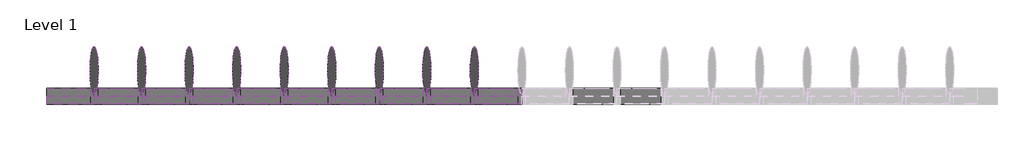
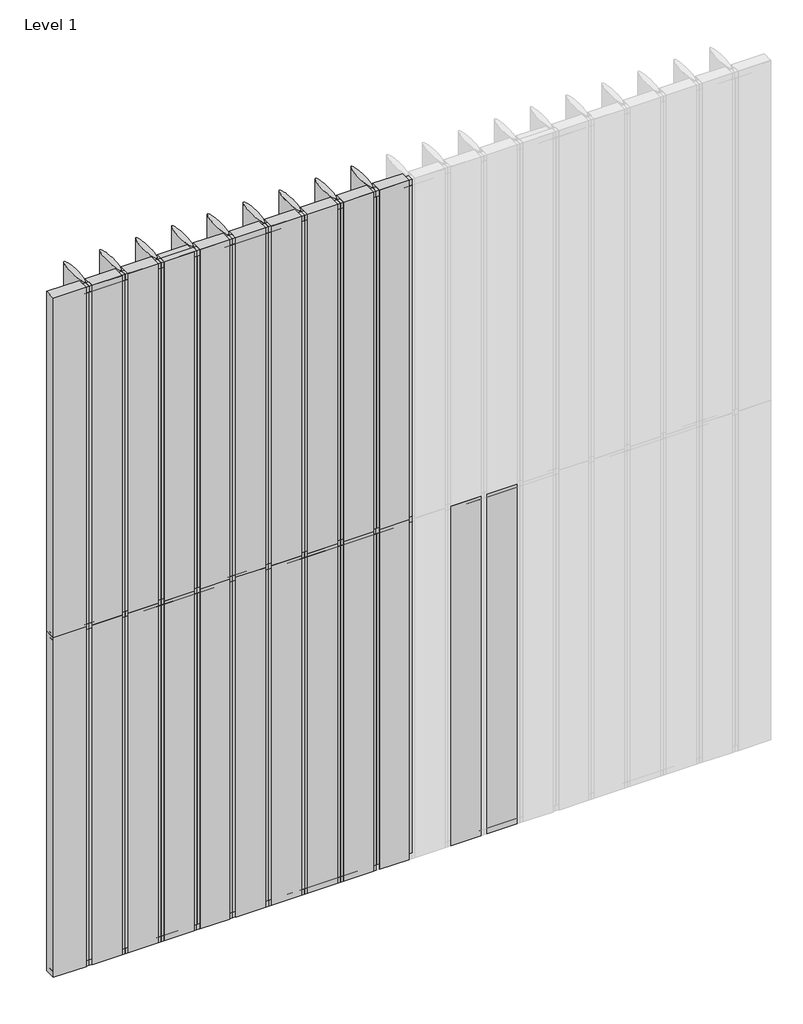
# One storey, part 1 of 2: 47 members, 42 plates.
"""IFC4 building model written with IfcOpenShell, lengths in millimetres."""

from ifc_helpers import new_model, si_unit, origin, place, context, project, spatial, transform, mapped, element, save
from components import rectangular_mullion_489e5dd7, rectangular_mullion_bcb65166, rectangular_mullion_d9db7a7c, rectangular_mullion_906318ec, empty_system_panel_empty_25b61279, empty_system_panel_empty_de0951d3, empty_system_panel_empty_eacbfc0b

model = new_model("IFC4")

# Units and contexts
model_context = context("Model", 3, world=origin())
ifc_project = project(units=[si_unit("LENGTHUNIT", "METRE", prefix="MILLI")], contexts=[model_context])

# Site, building, storey
site = spatial("IfcSite", under=ifc_project)
building = spatial("IfcBuilding", under=site)
storey = spatial("IfcBuildingStorey", under=building, Name="Level 1", Elevation=0.0)

# Members
placement = place(None, origin())
rectangular_mullion_shape = rectangular_mullion_489e5dd7(model_context)
element("IfcMember", 1, ObjectType="Rectangular Mullion : RSen_21_CWM_blade - 300 ellips - 0°_gen_duco projects", at=placement, inside=storey, context=model_context, shape_type="MappedRepresentation", body=[
    mapped(rectangular_mullion_shape, transform((2700.0, 3000.0, 0.0), x_axis=(-1.0, 0.0, 0.0), y_axis=(0.0, 1.0, 0.0), z_axis=(0.0, 0.0, -1.0))),
])
element("IfcMember", 2, ObjectType="Rectangular Mullion : RSen_21_CWM_blade - 300 ellips - 0°_gen_duco projects", at=placement, inside=storey, context=model_context, shape_type="MappedRepresentation", body=[
    mapped(rectangular_mullion_shape, transform((2400.0, 3000.0, 0.0), x_axis=(-1.0, 0.0, 0.0), y_axis=(0.0, 1.0, 0.0), z_axis=(0.0, 0.0, -1.0))),
])
element("IfcMember", 3, ObjectType="Rectangular Mullion : RSen_21_CWM_blade - 300 ellips - 0°_gen_duco projects", at=placement, inside=storey, context=model_context, shape_type="MappedRepresentation", body=[
    mapped(rectangular_mullion_shape, transform((2100.0, 3000.0, 0.0), x_axis=(-1.0, 0.0, 0.0), y_axis=(0.0, 1.0, 0.0), z_axis=(0.0, 0.0, -1.0))),
])
element("IfcMember", 4, ObjectType="Rectangular Mullion : RSen_21_CWM_blade - 300 ellips - 0°_gen_duco projects", at=placement, inside=storey, context=model_context, shape_type="MappedRepresentation", body=[
    mapped(rectangular_mullion_shape, transform((1800.0, 3000.0, 0.0), x_axis=(-1.0, 0.0, 0.0), y_axis=(0.0, 1.0, 0.0), z_axis=(0.0, 0.0, -1.0))),
])
element("IfcMember", 5, ObjectType="Rectangular Mullion : RSen_21_CWM_blade - 300 ellips - 0°_gen_duco projects", at=placement, inside=storey, context=model_context, shape_type="MappedRepresentation", body=[
    mapped(rectangular_mullion_shape, transform((1500.0, 3000.0, 0.0), x_axis=(-1.0, 0.0, 0.0), y_axis=(0.0, 1.0, 0.0), z_axis=(0.0, 0.0, -1.0))),
])
element("IfcMember", 6, ObjectType="Rectangular Mullion : RSen_21_CWM_blade - 300 ellips - 0°_gen_duco projects", at=placement, inside=storey, context=model_context, shape_type="MappedRepresentation", body=[
    mapped(rectangular_mullion_shape, transform((1200.0, 3000.0, 0.0), x_axis=(-1.0, 0.0, 0.0), y_axis=(0.0, 1.0, 0.0), z_axis=(0.0, 0.0, -1.0))),
])
element("IfcMember", 7, ObjectType="Rectangular Mullion : RSen_21_CWM_blade - 300 ellips - 0°_gen_duco projects", at=placement, inside=storey, context=model_context, shape_type="MappedRepresentation", body=[
    mapped(rectangular_mullion_shape, transform((900.0, 3000.0, 0.0), x_axis=(-1.0, 0.0, 0.0), y_axis=(0.0, 1.0, 0.0), z_axis=(0.0, 0.0, -1.0))),
])
element("IfcMember", 8, ObjectType="Rectangular Mullion : RSen_21_CWM_blade - 300 ellips - 0°_gen_duco projects", at=placement, inside=storey, context=model_context, shape_type="MappedRepresentation", body=[
    mapped(rectangular_mullion_shape, transform((600.0, 3000.0, 0.0), x_axis=(-1.0, 0.0, 0.0), y_axis=(0.0, 1.0, 0.0), z_axis=(0.0, 0.0, -1.0))),
])
element("IfcMember", 9, ObjectType="Rectangular Mullion : RSen_21_CWM_blade - 300 ellips - 0°_gen_duco projects", at=placement, inside=storey, context=model_context, shape_type="MappedRepresentation", body=[
    mapped(rectangular_mullion_shape, transform((300.0, 3000.0, 0.0), x_axis=(-1.0, 0.0, 0.0), y_axis=(0.0, 1.0, 0.0), z_axis=(0.0, 0.0, -1.0))),
])
element("IfcMember", 10, ObjectType="Rectangular Mullion : RSen_21_CWM_blade - 300 ellips - 0°_gen_duco projects", at=placement, inside=storey, context=model_context, shape_type="MappedRepresentation", body=[
    mapped(rectangular_mullion_shape, transform((2700.0, 3000.0, 3000.0), x_axis=(-1.0, 0.0, 0.0), y_axis=(0.0, 1.0, 0.0), z_axis=(0.0, 0.0, -1.0))),
])
element("IfcMember", 11, ObjectType="Rectangular Mullion : RSen_21_CWM_blade - 300 ellips - 0°_gen_duco projects", at=placement, inside=storey, context=model_context, shape_type="MappedRepresentation", body=[
    mapped(rectangular_mullion_shape, transform((2400.0, 3000.0, 3000.0), x_axis=(-1.0, 0.0, 0.0), y_axis=(0.0, 1.0, 0.0), z_axis=(0.0, 0.0, -1.0))),
])
element("IfcMember", 12, ObjectType="Rectangular Mullion : RSen_21_CWM_blade - 300 ellips - 0°_gen_duco projects", at=placement, inside=storey, context=model_context, shape_type="MappedRepresentation", body=[
    mapped(rectangular_mullion_shape, transform((2100.0, 3000.0, 3000.0), x_axis=(-1.0, 0.0, 0.0), y_axis=(0.0, 1.0, 0.0), z_axis=(0.0, 0.0, -1.0))),
])
element("IfcMember", 13, ObjectType="Rectangular Mullion : RSen_21_CWM_blade - 300 ellips - 0°_gen_duco projects", at=placement, inside=storey, context=model_context, shape_type="MappedRepresentation", body=[
    mapped(rectangular_mullion_shape, transform((1800.0, 3000.0, 3000.0), x_axis=(-1.0, 0.0, 0.0), y_axis=(0.0, 1.0, 0.0), z_axis=(0.0, 0.0, -1.0))),
])
element("IfcMember", 14, ObjectType="Rectangular Mullion : RSen_21_CWM_blade - 300 ellips - 0°_gen_duco projects", at=placement, inside=storey, context=model_context, shape_type="MappedRepresentation", body=[
    mapped(rectangular_mullion_shape, transform((1500.0, 3000.0, 3000.0), x_axis=(-1.0, 0.0, 0.0), y_axis=(0.0, 1.0, 0.0), z_axis=(0.0, 0.0, -1.0))),
])
element("IfcMember", 15, ObjectType="Rectangular Mullion : RSen_21_CWM_blade - 300 ellips - 0°_gen_duco projects", at=placement, inside=storey, context=model_context, shape_type="MappedRepresentation", body=[
    mapped(rectangular_mullion_shape, transform((1200.0, 3000.0, 3000.0), x_axis=(-1.0, 0.0, 0.0), y_axis=(0.0, 1.0, 0.0), z_axis=(0.0, 0.0, -1.0))),
])
element("IfcMember", 16, ObjectType="Rectangular Mullion : RSen_21_CWM_blade - 300 ellips - 0°_gen_duco projects", at=placement, inside=storey, context=model_context, shape_type="MappedRepresentation", body=[
    mapped(rectangular_mullion_shape, transform((900.0, 3000.0, 3000.0), x_axis=(-1.0, 0.0, 0.0), y_axis=(0.0, 1.0, 0.0), z_axis=(0.0, 0.0, -1.0))),
])
element("IfcMember", 17, ObjectType="Rectangular Mullion : RSen_21_CWM_blade - 300 ellips - 0°_gen_duco projects", at=placement, inside=storey, context=model_context, shape_type="MappedRepresentation", body=[
    mapped(rectangular_mullion_shape, transform((600.0, 3000.0, 3000.0), x_axis=(-1.0, 0.0, 0.0), y_axis=(0.0, 1.0, 0.0), z_axis=(0.0, 0.0, -1.0))),
])
element("IfcMember", 18, ObjectType="Rectangular Mullion : RSen_21_CWM_blade - 300 ellips - 0°_gen_duco projects", at=placement, inside=storey, context=model_context, shape_type="MappedRepresentation", body=[
    mapped(rectangular_mullion_shape, transform((300.0, 3000.0, 3000.0), x_axis=(-1.0, 0.0, 0.0), y_axis=(0.0, 1.0, 0.0), z_axis=(0.0, 0.0, -1.0))),
])
rectangular_mullion_2_shape = rectangular_mullion_bcb65166(model_context)
element("IfcMember", 19, ObjectType="Rectangular Mullion : RSen_21_CWM_support profile 50x50 - left_gen_duco projects", at=placement, inside=storey, context=model_context, shape_type="MappedRepresentation", body=[
    mapped(rectangular_mullion_2_shape, transform((0.0, 3000.0, 6000.0), x_axis=(0.0, 0.0, 1.0), y_axis=(0.0, 1.0, 0.0), z_axis=(-1.0, 0.0, 0.0))),
])
element("IfcMember", 20, ObjectType="Rectangular Mullion : RSen_21_CWM_support profile 50x50 - left_gen_duco projects", at=placement, inside=storey, context=model_context, shape_type="MappedRepresentation", body=[
    mapped(rectangular_mullion_2_shape, transform((2700.0, 3000.0, 6000.0), x_axis=(0.0, 0.0, 1.0), y_axis=(0.0, 1.0, 0.0), z_axis=(-1.0, 0.0, 0.0))),
])
element("IfcMember", 21, ObjectType="Rectangular Mullion : RSen_21_CWM_support profile 50x50 - left_gen_duco projects", at=placement, inside=storey, context=model_context, shape_type="MappedRepresentation", body=[
    mapped(rectangular_mullion_2_shape, transform((2400.0, 3000.0, 6000.0), x_axis=(0.0, 0.0, 1.0), y_axis=(0.0, 1.0, 0.0), z_axis=(-1.0, 0.0, 0.0))),
])
element("IfcMember", 22, ObjectType="Rectangular Mullion : RSen_21_CWM_support profile 50x50 - left_gen_duco projects", at=placement, inside=storey, context=model_context, shape_type="MappedRepresentation", body=[
    mapped(rectangular_mullion_2_shape, transform((2100.0, 3000.0, 6000.0), x_axis=(0.0, 0.0, 1.0), y_axis=(0.0, 1.0, 0.0), z_axis=(-1.0, 0.0, 0.0))),
])
element("IfcMember", 23, ObjectType="Rectangular Mullion : RSen_21_CWM_support profile 50x50 - left_gen_duco projects", at=placement, inside=storey, context=model_context, shape_type="MappedRepresentation", body=[
    mapped(rectangular_mullion_2_shape, transform((1800.0, 3000.0, 6000.0), x_axis=(0.0, 0.0, 1.0), y_axis=(0.0, 1.0, 0.0), z_axis=(-1.0, 0.0, 0.0))),
])
element("IfcMember", 24, ObjectType="Rectangular Mullion : RSen_21_CWM_support profile 50x50 - left_gen_duco projects", at=placement, inside=storey, context=model_context, shape_type="MappedRepresentation", body=[
    mapped(rectangular_mullion_2_shape, transform((1500.0, 3000.0, 6000.0), x_axis=(0.0, 0.0, 1.0), y_axis=(0.0, 1.0, 0.0), z_axis=(-1.0, 0.0, 0.0))),
])
element("IfcMember", 25, ObjectType="Rectangular Mullion : RSen_21_CWM_support profile 50x50 - left_gen_duco projects", at=placement, inside=storey, context=model_context, shape_type="MappedRepresentation", body=[
    mapped(rectangular_mullion_2_shape, transform((1200.0, 3000.0, 6000.0), x_axis=(0.0, 0.0, 1.0), y_axis=(0.0, 1.0, 0.0), z_axis=(-1.0, 0.0, 0.0))),
])
element("IfcMember", 26, ObjectType="Rectangular Mullion : RSen_21_CWM_support profile 50x50 - left_gen_duco projects", at=placement, inside=storey, context=model_context, shape_type="MappedRepresentation", body=[
    mapped(rectangular_mullion_2_shape, transform((900.0, 3000.0, 6000.0), x_axis=(0.0, 0.0, 1.0), y_axis=(0.0, 1.0, 0.0), z_axis=(-1.0, 0.0, 0.0))),
])
element("IfcMember", 27, ObjectType="Rectangular Mullion : RSen_21_CWM_support profile 50x50 - left_gen_duco projects", at=placement, inside=storey, context=model_context, shape_type="MappedRepresentation", body=[
    mapped(rectangular_mullion_2_shape, transform((600.0, 3000.0, 6000.0), x_axis=(0.0, 0.0, 1.0), y_axis=(0.0, 1.0, 0.0), z_axis=(-1.0, 0.0, 0.0))),
])
element("IfcMember", 28, ObjectType="Rectangular Mullion : RSen_21_CWM_support profile 50x50 - left_gen_duco projects", at=placement, inside=storey, context=model_context, shape_type="MappedRepresentation", body=[
    mapped(rectangular_mullion_2_shape, transform((300.0, 3000.0, 6000.0), x_axis=(0.0, 0.0, 1.0), y_axis=(0.0, 1.0, 0.0), z_axis=(-1.0, 0.0, 0.0))),
])
rectangular_mullion_3_shape = rectangular_mullion_d9db7a7c(model_context)
element("IfcMember", 29, ObjectType="Rectangular Mullion : RSen_21_CWM_support profile 50x50 - right_gen_duco projects", at=placement, inside=storey, context=model_context, shape_type="MappedRepresentation", body=[
    mapped(rectangular_mullion_3_shape, transform((2700.0, 3000.0, 0.0), x_axis=(0.0, 0.0, -1.0), y_axis=(0.0, 1.0, 0.0), z_axis=(1.0, 0.0, 0.0))),
])
element("IfcMember", 30, ObjectType="Rectangular Mullion : RSen_21_CWM_support profile 50x50 - right_gen_duco projects", at=placement, inside=storey, context=model_context, shape_type="MappedRepresentation", body=[
    mapped(rectangular_mullion_3_shape, transform((2400.0, 3000.0, 0.0), x_axis=(0.0, 0.0, -1.0), y_axis=(0.0, 1.0, 0.0), z_axis=(1.0, 0.0, 0.0))),
])
element("IfcMember", 31, ObjectType="Rectangular Mullion : RSen_21_CWM_support profile 50x50 - right_gen_duco projects", at=placement, inside=storey, context=model_context, shape_type="MappedRepresentation", body=[
    mapped(rectangular_mullion_3_shape, transform((2100.0, 3000.0, 0.0), x_axis=(0.0, 0.0, -1.0), y_axis=(0.0, 1.0, 0.0), z_axis=(1.0, 0.0, 0.0))),
])
element("IfcMember", 32, ObjectType="Rectangular Mullion : RSen_21_CWM_support profile 50x50 - right_gen_duco projects", at=placement, inside=storey, context=model_context, shape_type="MappedRepresentation", body=[
    mapped(rectangular_mullion_3_shape, transform((1800.0, 3000.0, 0.0), x_axis=(0.0, 0.0, -1.0), y_axis=(0.0, 1.0, 0.0), z_axis=(1.0, 0.0, 0.0))),
])
element("IfcMember", 33, ObjectType="Rectangular Mullion : RSen_21_CWM_support profile 50x50 - right_gen_duco projects", at=placement, inside=storey, context=model_context, shape_type="MappedRepresentation", body=[
    mapped(rectangular_mullion_3_shape, transform((1500.0, 3000.0, 0.0), x_axis=(0.0, 0.0, -1.0), y_axis=(0.0, 1.0, 0.0), z_axis=(1.0, 0.0, 0.0))),
])
element("IfcMember", 34, ObjectType="Rectangular Mullion : RSen_21_CWM_support profile 50x50 - right_gen_duco projects", at=placement, inside=storey, context=model_context, shape_type="MappedRepresentation", body=[
    mapped(rectangular_mullion_3_shape, transform((1200.0, 3000.0, 0.0), x_axis=(0.0, 0.0, -1.0), y_axis=(0.0, 1.0, 0.0), z_axis=(1.0, 0.0, 0.0))),
])
element("IfcMember", 35, ObjectType="Rectangular Mullion : RSen_21_CWM_support profile 50x50 - right_gen_duco projects", at=placement, inside=storey, context=model_context, shape_type="MappedRepresentation", body=[
    mapped(rectangular_mullion_3_shape, transform((900.0, 3000.0, 0.0), x_axis=(0.0, 0.0, -1.0), y_axis=(0.0, 1.0, 0.0), z_axis=(1.0, 0.0, 0.0))),
])
element("IfcMember", 36, ObjectType="Rectangular Mullion : RSen_21_CWM_support profile 50x50 - right_gen_duco projects", at=placement, inside=storey, context=model_context, shape_type="MappedRepresentation", body=[
    mapped(rectangular_mullion_3_shape, transform((600.0, 3000.0, 0.0), x_axis=(0.0, 0.0, -1.0), y_axis=(0.0, 1.0, 0.0), z_axis=(1.0, 0.0, 0.0))),
])
element("IfcMember", 37, ObjectType="Rectangular Mullion : RSen_21_CWM_support profile 50x50 - right_gen_duco projects", at=placement, inside=storey, context=model_context, shape_type="MappedRepresentation", body=[
    mapped(rectangular_mullion_3_shape, transform((300.0, 3000.0, 0.0), x_axis=(0.0, 0.0, -1.0), y_axis=(0.0, 1.0, 0.0), z_axis=(1.0, 0.0, 0.0))),
])
rectangular_mullion_4_shape = rectangular_mullion_906318ec(model_context)
element("IfcMember", 38, ObjectType="Rectangular Mullion : RSen_21_CWM_support profile 50x50_gen_duco projects", at=placement, inside=storey, context=model_context, shape_type="MappedRepresentation", body=[
    mapped(rectangular_mullion_4_shape, transform((2700.0, 3000.0, 3000.0), x_axis=(0.0, 0.0, 1.0), y_axis=(0.0, 1.0, 0.0), z_axis=(-1.0, 0.0, 0.0))),
])
element("IfcMember", 39, ObjectType="Rectangular Mullion : RSen_21_CWM_support profile 50x50_gen_duco projects", at=placement, inside=storey, context=model_context, shape_type="MappedRepresentation", body=[
    mapped(rectangular_mullion_4_shape, transform((2400.0, 3000.0, 3000.0), x_axis=(0.0, 0.0, 1.0), y_axis=(0.0, 1.0, 0.0), z_axis=(-1.0, 0.0, 0.0))),
])
element("IfcMember", 40, ObjectType="Rectangular Mullion : RSen_21_CWM_support profile 50x50_gen_duco projects", at=placement, inside=storey, context=model_context, shape_type="MappedRepresentation", body=[
    mapped(rectangular_mullion_4_shape, transform((2100.0, 3000.0, 3000.0), x_axis=(0.0, 0.0, 1.0), y_axis=(0.0, 1.0, 0.0), z_axis=(-1.0, 0.0, 0.0))),
])
element("IfcMember", 41, ObjectType="Rectangular Mullion : RSen_21_CWM_support profile 50x50_gen_duco projects", at=placement, inside=storey, context=model_context, shape_type="MappedRepresentation", body=[
    mapped(rectangular_mullion_4_shape, transform((1800.0, 3000.0, 3000.0), x_axis=(0.0, 0.0, 1.0), y_axis=(0.0, 1.0, 0.0), z_axis=(-1.0, 0.0, 0.0))),
])
element("IfcMember", 42, ObjectType="Rectangular Mullion : RSen_21_CWM_support profile 50x50_gen_duco projects", at=placement, inside=storey, context=model_context, shape_type="MappedRepresentation", body=[
    mapped(rectangular_mullion_4_shape, transform((1500.0, 3000.0, 3000.0), x_axis=(0.0, 0.0, 1.0), y_axis=(0.0, 1.0, 0.0), z_axis=(-1.0, 0.0, 0.0))),
])
element("IfcMember", 43, ObjectType="Rectangular Mullion : RSen_21_CWM_support profile 50x50_gen_duco projects", at=placement, inside=storey, context=model_context, shape_type="MappedRepresentation", body=[
    mapped(rectangular_mullion_4_shape, transform((1200.0, 3000.0, 3000.0), x_axis=(0.0, 0.0, 1.0), y_axis=(0.0, 1.0, 0.0), z_axis=(-1.0, 0.0, 0.0))),
])
element("IfcMember", 44, ObjectType="Rectangular Mullion : RSen_21_CWM_support profile 50x50_gen_duco projects", at=placement, inside=storey, context=model_context, shape_type="MappedRepresentation", body=[
    mapped(rectangular_mullion_4_shape, transform((900.0, 3000.0, 3000.0), x_axis=(0.0, 0.0, 1.0), y_axis=(0.0, 1.0, 0.0), z_axis=(-1.0, 0.0, 0.0))),
])
element("IfcMember", 45, ObjectType="Rectangular Mullion : RSen_21_CWM_support profile 50x50_gen_duco projects", at=placement, inside=storey, context=model_context, shape_type="MappedRepresentation", body=[
    mapped(rectangular_mullion_4_shape, transform((600.0, 3000.0, 3000.0), x_axis=(0.0, 0.0, 1.0), y_axis=(0.0, 1.0, 0.0), z_axis=(-1.0, 0.0, 0.0))),
])
element("IfcMember", 46, ObjectType="Rectangular Mullion : RSen_21_CWM_support profile 50x50_gen_duco projects", at=placement, inside=storey, context=model_context, shape_type="MappedRepresentation", body=[
    mapped(rectangular_mullion_4_shape, transform((300.0, 3000.0, 3000.0), x_axis=(0.0, 0.0, 1.0), y_axis=(0.0, 1.0, 0.0), z_axis=(-1.0, 0.0, 0.0))),
])
element("IfcMember", 47, ObjectType="Rectangular Mullion : RSen_21_CWM_support profile 50x50_gen_duco projects", at=placement, inside=storey, context=model_context, shape_type="MappedRepresentation", body=[
    mapped(rectangular_mullion_4_shape, transform((0.0, 3000.0, 3000.0), x_axis=(0.0, 0.0, 1.0), y_axis=(0.0, 1.0, 0.0), z_axis=(-1.0, 0.0, 0.0))),
])

# Plates
empty_system_panel_empty_shape = empty_system_panel_empty_25b61279(model_context)
element("IfcPlate", 48, ObjectType="Empty System Panel : Empty", at=placement, inside=storey, context=model_context, shape_type="MappedRepresentation", body=[
    mapped(empty_system_panel_empty_shape, transform((137.5, 3000.0, 0.0), x_axis=(-1.0, 0.0, 0.0), y_axis=(0.0, -1.0, 0.0), z_axis=(0.0, 0.0, 1.0))),
])
element("IfcPlate", 49, ObjectType="Empty System Panel : Empty", at=placement, inside=storey, context=model_context, shape_type="MappedRepresentation", body=[
    mapped(empty_system_panel_empty_shape, transform((137.5, 3000.0, 3000.0), x_axis=(-1.0, 0.0, 0.0), y_axis=(0.0, -1.0, 0.0), z_axis=(0.0, 0.0, 1.0))),
])
empty_system_panel_empty_2_shape = empty_system_panel_empty_de0951d3(model_context)
element("IfcPlate", 50, ObjectType="Empty System Panel : Empty", at=placement, inside=storey, context=model_context, shape_type="MappedRepresentation", body=[
    mapped(empty_system_panel_empty_2_shape, transform((3750.0, 3000.0, 0.0), x_axis=(-1.0, 0.0, 0.0), y_axis=(0.0, -1.0, 0.0), z_axis=(0.0, 0.0, 1.0))),
])
element("IfcPlate", 51, ObjectType="Empty System Panel : Empty", at=placement, inside=storey, context=model_context, shape_type="MappedRepresentation", body=[
    mapped(empty_system_panel_empty_2_shape, transform((3450.0, 3000.0, 0.0), x_axis=(-1.0, 0.0, 0.0), y_axis=(0.0, -1.0, 0.0), z_axis=(0.0, 0.0, 1.0))),
])
element("IfcPlate", 52, ObjectType="Empty System Panel : Empty", at=placement, inside=storey, context=model_context, shape_type="MappedRepresentation", body=[
    mapped(empty_system_panel_empty_2_shape, transform((2850.0, 3000.0, 0.0), x_axis=(-1.0, 0.0, 0.0), y_axis=(0.0, -1.0, 0.0), z_axis=(0.0, 0.0, 1.0))),
])
element("IfcPlate", 53, ObjectType="Empty System Panel : Empty", at=placement, inside=storey, context=model_context, shape_type="MappedRepresentation", body=[
    mapped(empty_system_panel_empty_2_shape, transform((2550.0, 3000.0, 0.0), x_axis=(-1.0, 0.0, 0.0), y_axis=(0.0, -1.0, 0.0), z_axis=(0.0, 0.0, 1.0))),
])
element("IfcPlate", 54, ObjectType="Empty System Panel : Empty", at=placement, inside=storey, context=model_context, shape_type="MappedRepresentation", body=[
    mapped(empty_system_panel_empty_2_shape, transform((2250.0, 3000.0, 0.0), x_axis=(-1.0, 0.0, 0.0), y_axis=(0.0, -1.0, 0.0), z_axis=(0.0, 0.0, 1.0))),
])
element("IfcPlate", 55, ObjectType="Empty System Panel : Empty", at=placement, inside=storey, context=model_context, shape_type="MappedRepresentation", body=[
    mapped(empty_system_panel_empty_2_shape, transform((1950.0, 3000.0, 0.0), x_axis=(-1.0, 0.0, 0.0), y_axis=(0.0, -1.0, 0.0), z_axis=(0.0, 0.0, 1.0))),
])
element("IfcPlate", 56, ObjectType="Empty System Panel : Empty", at=placement, inside=storey, context=model_context, shape_type="MappedRepresentation", body=[
    mapped(empty_system_panel_empty_2_shape, transform((1650.0, 3000.0, 0.0), x_axis=(-1.0, 0.0, 0.0), y_axis=(0.0, -1.0, 0.0), z_axis=(0.0, 0.0, 1.0))),
])
element("IfcPlate", 57, ObjectType="Empty System Panel : Empty", at=placement, inside=storey, context=model_context, shape_type="MappedRepresentation", body=[
    mapped(empty_system_panel_empty_2_shape, transform((1350.0, 3000.0, 0.0), x_axis=(-1.0, 0.0, 0.0), y_axis=(0.0, -1.0, 0.0), z_axis=(0.0, 0.0, 1.0))),
])
element("IfcPlate", 58, ObjectType="Empty System Panel : Empty", at=placement, inside=storey, context=model_context, shape_type="MappedRepresentation", body=[
    mapped(empty_system_panel_empty_2_shape, transform((1050.0, 3000.0, 0.0), x_axis=(-1.0, 0.0, 0.0), y_axis=(0.0, -1.0, 0.0), z_axis=(0.0, 0.0, 1.0))),
])
element("IfcPlate", 59, ObjectType="Empty System Panel : Empty", at=placement, inside=storey, context=model_context, shape_type="MappedRepresentation", body=[
    mapped(empty_system_panel_empty_2_shape, transform((750.0, 3000.0, 0.0), x_axis=(-1.0, 0.0, 0.0), y_axis=(0.0, -1.0, 0.0), z_axis=(0.0, 0.0, 1.0))),
])
element("IfcPlate", 60, ObjectType="Empty System Panel : Empty", at=placement, inside=storey, context=model_context, shape_type="MappedRepresentation", body=[
    mapped(empty_system_panel_empty_2_shape, transform((450.0, 3000.0, 0.0), x_axis=(-1.0, 0.0, 0.0), y_axis=(0.0, -1.0, 0.0), z_axis=(0.0, 0.0, 1.0))),
])
element("IfcPlate", 61, ObjectType="Empty System Panel : Empty", at=placement, inside=storey, context=model_context, shape_type="MappedRepresentation", body=[
    mapped(empty_system_panel_empty_2_shape, transform((2850.0, 3000.0, 3000.0), x_axis=(-1.0, 0.0, 0.0), y_axis=(0.0, -1.0, 0.0), z_axis=(0.0, 0.0, 1.0))),
])
element("IfcPlate", 62, ObjectType="Empty System Panel : Empty", at=placement, inside=storey, context=model_context, shape_type="MappedRepresentation", body=[
    mapped(empty_system_panel_empty_2_shape, transform((2550.0, 3000.0, 3000.0), x_axis=(-1.0, 0.0, 0.0), y_axis=(0.0, -1.0, 0.0), z_axis=(0.0, 0.0, 1.0))),
])
element("IfcPlate", 63, ObjectType="Empty System Panel : Empty", at=placement, inside=storey, context=model_context, shape_type="MappedRepresentation", body=[
    mapped(empty_system_panel_empty_2_shape, transform((2250.0, 3000.0, 3000.0), x_axis=(-1.0, 0.0, 0.0), y_axis=(0.0, -1.0, 0.0), z_axis=(0.0, 0.0, 1.0))),
])
element("IfcPlate", 64, ObjectType="Empty System Panel : Empty", at=placement, inside=storey, context=model_context, shape_type="MappedRepresentation", body=[
    mapped(empty_system_panel_empty_2_shape, transform((1950.0, 3000.0, 3000.0), x_axis=(-1.0, 0.0, 0.0), y_axis=(0.0, -1.0, 0.0), z_axis=(0.0, 0.0, 1.0))),
])
element("IfcPlate", 65, ObjectType="Empty System Panel : Empty", at=placement, inside=storey, context=model_context, shape_type="MappedRepresentation", body=[
    mapped(empty_system_panel_empty_2_shape, transform((1650.0, 3000.0, 3000.0), x_axis=(-1.0, 0.0, 0.0), y_axis=(0.0, -1.0, 0.0), z_axis=(0.0, 0.0, 1.0))),
])
element("IfcPlate", 66, ObjectType="Empty System Panel : Empty", at=placement, inside=storey, context=model_context, shape_type="MappedRepresentation", body=[
    mapped(empty_system_panel_empty_2_shape, transform((1350.0, 3000.0, 3000.0), x_axis=(-1.0, 0.0, 0.0), y_axis=(0.0, -1.0, 0.0), z_axis=(0.0, 0.0, 1.0))),
])
element("IfcPlate", 67, ObjectType="Empty System Panel : Empty", at=placement, inside=storey, context=model_context, shape_type="MappedRepresentation", body=[
    mapped(empty_system_panel_empty_2_shape, transform((1050.0, 3000.0, 3000.0), x_axis=(-1.0, 0.0, 0.0), y_axis=(0.0, -1.0, 0.0), z_axis=(0.0, 0.0, 1.0))),
])
element("IfcPlate", 68, ObjectType="Empty System Panel : Empty", at=placement, inside=storey, context=model_context, shape_type="MappedRepresentation", body=[
    mapped(empty_system_panel_empty_2_shape, transform((750.0, 3000.0, 3000.0), x_axis=(-1.0, 0.0, 0.0), y_axis=(0.0, -1.0, 0.0), z_axis=(0.0, 0.0, 1.0))),
])
element("IfcPlate", 69, ObjectType="Empty System Panel : Empty", at=placement, inside=storey, context=model_context, shape_type="MappedRepresentation", body=[
    mapped(empty_system_panel_empty_2_shape, transform((450.0, 3000.0, 3000.0), x_axis=(-1.0, 0.0, 0.0), y_axis=(0.0, -1.0, 0.0), z_axis=(0.0, 0.0, 1.0))),
])
empty_system_panel_empty_3_shape = empty_system_panel_empty_eacbfc0b(model_context)
element("IfcPlate", 70, ObjectType="Empty System Panel : Empty", at=placement, inside=storey, context=model_context, shape_type="MappedRepresentation", body=[
    mapped(empty_system_panel_empty_3_shape, transform((2850.0, 3000.0, 50.0), x_axis=(-1.0, 0.0, 0.0), y_axis=(0.0, -1.0, 0.0), z_axis=(0.0, 0.0, 1.0))),
])
element("IfcPlate", 71, ObjectType="Empty System Panel : Empty", at=placement, inside=storey, context=model_context, shape_type="MappedRepresentation", body=[
    mapped(empty_system_panel_empty_3_shape, transform((2550.0, 3000.0, 50.0), x_axis=(-1.0, 0.0, 0.0), y_axis=(0.0, -1.0, 0.0), z_axis=(0.0, 0.0, 1.0))),
])
element("IfcPlate", 72, ObjectType="Empty System Panel : Empty", at=placement, inside=storey, context=model_context, shape_type="MappedRepresentation", body=[
    mapped(empty_system_panel_empty_3_shape, transform((2250.0, 3000.0, 50.0), x_axis=(-1.0, 0.0, 0.0), y_axis=(0.0, -1.0, 0.0), z_axis=(0.0, 0.0, 1.0))),
])
element("IfcPlate", 73, ObjectType="Empty System Panel : Empty", at=placement, inside=storey, context=model_context, shape_type="MappedRepresentation", body=[
    mapped(empty_system_panel_empty_3_shape, transform((1950.0, 3000.0, 50.0), x_axis=(-1.0, 0.0, 0.0), y_axis=(0.0, -1.0, 0.0), z_axis=(0.0, 0.0, 1.0))),
])
element("IfcPlate", 74, ObjectType="Empty System Panel : Empty", at=placement, inside=storey, context=model_context, shape_type="MappedRepresentation", body=[
    mapped(empty_system_panel_empty_3_shape, transform((1650.0, 3000.0, 50.0), x_axis=(-1.0, 0.0, 0.0), y_axis=(0.0, -1.0, 0.0), z_axis=(0.0, 0.0, 1.0))),
])
element("IfcPlate", 75, ObjectType="Empty System Panel : Empty", at=placement, inside=storey, context=model_context, shape_type="MappedRepresentation", body=[
    mapped(empty_system_panel_empty_3_shape, transform((1350.0, 3000.0, 50.0), x_axis=(-1.0, 0.0, 0.0), y_axis=(0.0, -1.0, 0.0), z_axis=(0.0, 0.0, 1.0))),
])
element("IfcPlate", 76, ObjectType="Empty System Panel : Empty", at=placement, inside=storey, context=model_context, shape_type="MappedRepresentation", body=[
    mapped(empty_system_panel_empty_3_shape, transform((1050.0, 3000.0, 50.0), x_axis=(-1.0, 0.0, 0.0), y_axis=(0.0, -1.0, 0.0), z_axis=(0.0, 0.0, 1.0))),
])
element("IfcPlate", 77, ObjectType="Empty System Panel : Empty", at=placement, inside=storey, context=model_context, shape_type="MappedRepresentation", body=[
    mapped(empty_system_panel_empty_3_shape, transform((750.0, 3000.0, 50.0), x_axis=(-1.0, 0.0, 0.0), y_axis=(0.0, -1.0, 0.0), z_axis=(0.0, 0.0, 1.0))),
])
element("IfcPlate", 78, ObjectType="Empty System Panel : Empty", at=placement, inside=storey, context=model_context, shape_type="MappedRepresentation", body=[
    mapped(empty_system_panel_empty_3_shape, transform((450.0, 3000.0, 50.0), x_axis=(-1.0, 0.0, 0.0), y_axis=(0.0, -1.0, 0.0), z_axis=(0.0, 0.0, 1.0))),
])
element("IfcPlate", 79, ObjectType="Empty System Panel : Empty", at=placement, inside=storey, context=model_context, shape_type="MappedRepresentation", body=[
    mapped(empty_system_panel_empty_3_shape, transform((150.0, 3000.0, 50.0), x_axis=(-1.0, 0.0, 0.0), y_axis=(0.0, -1.0, 0.0), z_axis=(0.0, 0.0, 1.0))),
])
element("IfcPlate", 80, ObjectType="Empty System Panel : Empty", at=placement, inside=storey, context=model_context, shape_type="MappedRepresentation", body=[
    mapped(empty_system_panel_empty_3_shape, transform((2850.0, 3000.0, 3025.0), x_axis=(-1.0, 0.0, 0.0), y_axis=(0.0, -1.0, 0.0), z_axis=(0.0, 0.0, 1.0))),
])
element("IfcPlate", 81, ObjectType="Empty System Panel : Empty", at=placement, inside=storey, context=model_context, shape_type="MappedRepresentation", body=[
    mapped(empty_system_panel_empty_3_shape, transform((2550.0, 3000.0, 3025.0), x_axis=(-1.0, 0.0, 0.0), y_axis=(0.0, -1.0, 0.0), z_axis=(0.0, 0.0, 1.0))),
])
element("IfcPlate", 82, ObjectType="Empty System Panel : Empty", at=placement, inside=storey, context=model_context, shape_type="MappedRepresentation", body=[
    mapped(empty_system_panel_empty_3_shape, transform((2250.0, 3000.0, 3025.0), x_axis=(-1.0, 0.0, 0.0), y_axis=(0.0, -1.0, 0.0), z_axis=(0.0, 0.0, 1.0))),
])
element("IfcPlate", 83, ObjectType="Empty System Panel : Empty", at=placement, inside=storey, context=model_context, shape_type="MappedRepresentation", body=[
    mapped(empty_system_panel_empty_3_shape, transform((1950.0, 3000.0, 3025.0), x_axis=(-1.0, 0.0, 0.0), y_axis=(0.0, -1.0, 0.0), z_axis=(0.0, 0.0, 1.0))),
])
element("IfcPlate", 84, ObjectType="Empty System Panel : Empty", at=placement, inside=storey, context=model_context, shape_type="MappedRepresentation", body=[
    mapped(empty_system_panel_empty_3_shape, transform((1650.0, 3000.0, 3025.0), x_axis=(-1.0, 0.0, 0.0), y_axis=(0.0, -1.0, 0.0), z_axis=(0.0, 0.0, 1.0))),
])
element("IfcPlate", 85, ObjectType="Empty System Panel : Empty", at=placement, inside=storey, context=model_context, shape_type="MappedRepresentation", body=[
    mapped(empty_system_panel_empty_3_shape, transform((1350.0, 3000.0, 3025.0), x_axis=(-1.0, 0.0, 0.0), y_axis=(0.0, -1.0, 0.0), z_axis=(0.0, 0.0, 1.0))),
])
element("IfcPlate", 86, ObjectType="Empty System Panel : Empty", at=placement, inside=storey, context=model_context, shape_type="MappedRepresentation", body=[
    mapped(empty_system_panel_empty_3_shape, transform((1050.0, 3000.0, 3025.0), x_axis=(-1.0, 0.0, 0.0), y_axis=(0.0, -1.0, 0.0), z_axis=(0.0, 0.0, 1.0))),
])
element("IfcPlate", 87, ObjectType="Empty System Panel : Empty", at=placement, inside=storey, context=model_context, shape_type="MappedRepresentation", body=[
    mapped(empty_system_panel_empty_3_shape, transform((750.0, 3000.0, 3025.0), x_axis=(-1.0, 0.0, 0.0), y_axis=(0.0, -1.0, 0.0), z_axis=(0.0, 0.0, 1.0))),
])
element("IfcPlate", 88, ObjectType="Empty System Panel : Empty", at=placement, inside=storey, context=model_context, shape_type="MappedRepresentation", body=[
    mapped(empty_system_panel_empty_3_shape, transform((450.0, 3000.0, 3025.0), x_axis=(-1.0, 0.0, 0.0), y_axis=(0.0, -1.0, 0.0), z_axis=(0.0, 0.0, 1.0))),
])
element("IfcPlate", 89, ObjectType="Empty System Panel : Empty", at=placement, inside=storey, context=model_context, shape_type="MappedRepresentation", body=[
    mapped(empty_system_panel_empty_3_shape, transform((150.0, 3000.0, 3025.0), x_axis=(-1.0, 0.0, 0.0), y_axis=(0.0, -1.0, 0.0), z_axis=(0.0, 0.0, 1.0))),
])

save(model, "model.ifc")
